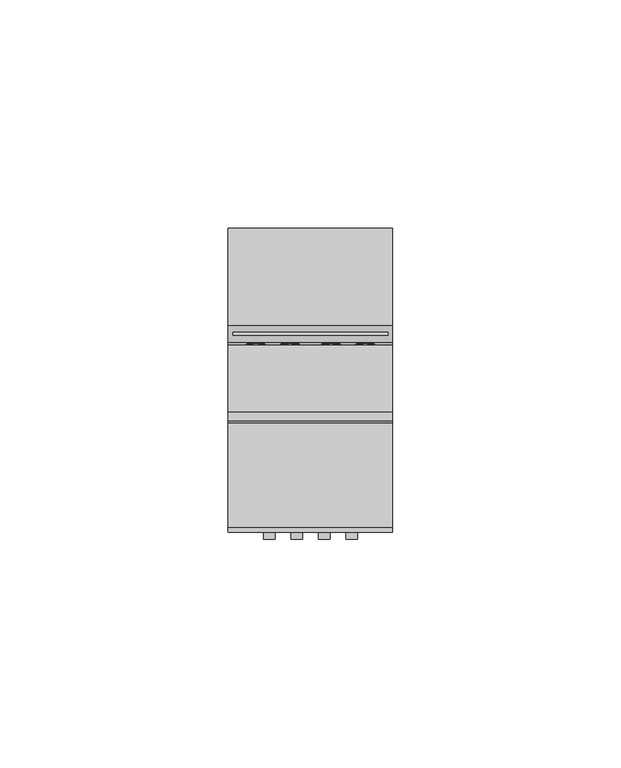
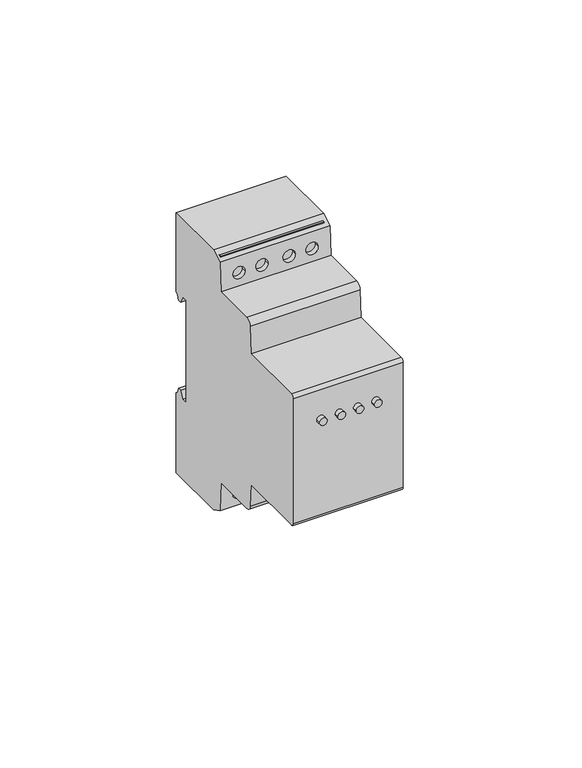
"""IFC4 building model written with IfcOpenShell, lengths in millimetres: proxy geometry, TDM_РЕЛЕ КОНТРОЛЯ НАПРЯЖЕНИЯ СЕРИИ РН 02_04_05_08_10_11 : РН 02-3х400 В."""

from ifc_helpers import new_model, si_unit, point, frame, frame_2d, origin, place, context, project, spatial, polyline, circle_curve, ellipse_curve, trimmed, segment, composite_curve, outline, extrude, source, transform, mapped, element, save
from ifc_brep_helpers import plane_surface, cylinder_surface, revolved_surface, advanced_brep


def electrical_equipment_ff696aed(model_context):
    return source(origin(), model_context, "Body", "SolidModel", [
        extrude(outline(composite_curve([segment(trimmed(circle_curve(frame_2d((10.7391856, -3.0)), 1.25), [point((10.7391856, -4.25))], [point((10.7391856, -1.75))], False, "CARTESIAN"), True, "CONTINUOUS"), segment(trimmed(circle_curve(frame_2d((10.7391856, -3.0)), 1.25), [point((10.7391856, -1.75))], [point((10.7391856, -4.25))], False, "CARTESIAN"), True, "CONTINUOUS")], self_intersect=False)), frame((0.0, -30.5593993, 0.0), z_axis=(0.0, 1.0, 0.0), x_axis=(0.0, 0.0, 1.0)), (0.0, 0.0, 1.0), 1.5593993),
        extrude(outline(composite_curve([segment(trimmed(circle_curve(frame_2d((10.7391856, -9.0)), 1.25), [point((10.7391856, -10.25))], [point((10.7391856, -7.75))], False, "CARTESIAN"), True, "CONTINUOUS"), segment(trimmed(circle_curve(frame_2d((10.7391856, -9.0)), 1.25), [point((10.7391856, -7.75))], [point((10.7391856, -10.25))], False, "CARTESIAN"), True, "CONTINUOUS")], self_intersect=False)), frame((0.0, -30.5593993, 0.0), z_axis=(0.0, 1.0, 0.0), x_axis=(0.0, 0.0, 1.0)), (0.0, 0.0, 1.0), 1.5593993),
        extrude(outline(composite_curve([segment(trimmed(circle_curve(frame_2d((10.7391856, 3.0)), 1.25), [point((10.7391856, 4.25))], [point((10.7391856, 1.75))], False, "CARTESIAN"), True, "CONTINUOUS"), segment(trimmed(circle_curve(frame_2d((10.7391856, 3.0)), 1.25), [point((10.7391856, 1.75))], [point((10.7391856, 4.25))], False, "CARTESIAN"), True, "CONTINUOUS")], self_intersect=False)), frame((0.0, -30.5593993, 0.0), z_axis=(0.0, 1.0, 0.0), x_axis=(0.0, 0.0, 1.0)), (0.0, 0.0, 1.0), 1.5593993),
        extrude(outline(composite_curve([segment(trimmed(circle_curve(frame_2d((10.7391856, 9.0)), 1.25), [point((10.7391856, 10.25))], [point((10.7391856, 7.75))], False, "CARTESIAN"), True, "CONTINUOUS"), segment(trimmed(circle_curve(frame_2d((10.7391856, 9.0)), 1.25), [point((10.7391856, 7.75))], [point((10.7391856, 10.25))], False, "CARTESIAN"), True, "CONTINUOUS")], self_intersect=False)), frame((0.0, -30.5593993, 0.0), z_axis=(0.0, 1.0, 0.0), x_axis=(0.0, 0.0, 1.0)), (0.0, 0.0, 1.0), 1.5593993),
        extrude(outline(polyline([(17.0, 16.6821204), (17.0, 14.1138713), (-17.0, 14.1138713), (-17.0, 16.6821204), (17.0, 16.6821204)])), frame((0.0, 0.0, -44.0625), z_axis=(0.0, 0.0, 1.0), x_axis=(1.0, 0.0, 0.0)), (0.0, 0.0, 1.0), 87.8126081),
        advanced_brep(
        [(18.0, 31.7632568, 18.2057143), (18.0, 33.4745816, 18.2057143), (18.0, 35.0790621, 15.4266726), (18.0, 36.2042493, 15.4266726), (18.0, 36.5256071, 17.2491835), (18.0, 37.5, 17.8117495), (18.0, 37.5, 45.0), (18.0, 16.2660628, 45.0), (18.0, 12.5, 43.0), (18.0, 11.9790691, 33.0600462), (18.0, -2.6020709, 33.0600462), (18.0, -4.5993299, 31.1647181), (18.0, -5.0796325, 22.0), (18.0, -27.8777313, 22.0), (18.0, -29.0, 20.8777313), (18.0, -29.0, -22.3875602), (18.0, -27.8875602, -23.5), (18.0, -5.0010208, -23.5), (18.0, -4.5993299, -31.1647181), (18.0, -2.6020709, -33.0600462), (18.0, 11.9790691, -33.0600462), (18.0, 12.5, -43.0), (18.0, 16.2660628, -45.0), (18.0, 37.5, -45.0), (18.0, 37.5, -17.4003208), (18.0, 36.5256071, -16.8377548), (18.0, 36.2042493, -15.0152439), (18.0, 35.0790621, -15.0152439), (18.0, 33.7632568, -17.2942857), (18.0, 31.7632568, -17.2942857), (-18.0, 31.7632568, 18.2057143), (-18.0, 31.7632568, -17.2942857), (-18.0, 33.7632568, -17.2942857), (-18.0, 35.0790621, -15.0152439), (-18.0, 36.2042493, -15.0152439), (-18.0, 36.5256071, -16.8377548), (-18.0, 37.5, -17.4003208), (-18.0, 37.5, -45.0), (-18.0, 16.2660628, -45.0), (-18.0, 12.5, -43.0), (-18.0, 11.9790691, -33.0600462), (-18.0, -2.6020709, -33.0600462), (-18.0, -4.5993299, -31.1647181), (-18.0, -5.0010208, -23.5), (-18.0, -27.8875602, -23.5), (-18.0, -29.0, -22.3875602), (-18.0, -29.0, 20.8777313), (-18.0, -27.8777313, 22.0), (-18.0, -5.0796325, 22.0), (-18.0, -4.5993299, 31.1647181), (-18.0, -2.6020709, 33.0600462), (-18.0, 11.9790691, 33.0600462), (-18.0, 12.5, 43.0), (-18.0, 16.2660628, 45.0), (-18.0, 37.5, 45.0), (-18.0, 37.5, 17.8117495), (-18.0, 36.5256071, 17.2491835), (-18.0, 36.2042493, 15.4266726), (-18.0, 35.0790621, 15.4266726), (-18.0, 33.4745816, 18.2057143), (-6.4760987, 12.2085347, 37.4385116), (-2.4760987, 12.2085347, 37.4385116), (-13.9760987, 12.2085347, 37.4385116), (-9.9760987, 12.2085347, 37.4385116), (6.4760987, 12.2085347, 37.4385116), (2.4760987, 12.2085347, 37.4385116), (13.9760987, 12.2085347, 37.4385116), (9.9760987, 12.2085347, 37.4385116), (-6.4760987, 12.2740445, -38.6885116), (-2.4760987, 12.2740445, -38.6885116), (-13.9760987, 12.2740445, -38.6885116), (-9.9760987, 12.2740445, -38.6885116), (6.4760987, 12.2740445, -38.6885116), (2.4760987, 12.2740445, -38.6885116), (13.9760987, 12.2740445, -38.6885116), (9.9760987, 12.2740445, -38.6885116), (-2.4760987, 15.2465164, -38.6885116), (-6.4760987, 15.2465164, -38.6885116), (-2.4760987, 15.2465164, 37.4385116), (-6.4760987, 15.2465164, 37.4385116), (-9.9760987, 15.2465164, -38.6885116), (-13.9760987, 15.2465164, -38.6885116), (-9.9760987, 15.2465164, 37.4385116), (-13.9760987, 15.2465164, 37.4385116), (2.4760987, 15.2465164, -38.6885116), (6.4760987, 15.2465164, -38.6885116), (2.4760987, 15.2465164, 37.4385116), (6.4760987, 15.2465164, 37.4385116), (9.9760987, 15.2465164, -38.6885116), (13.9760987, 15.2465164, -38.6885116), (9.9760987, 15.2465164, 37.4385116), (13.9760987, 15.2465164, 37.4385116)],
        [
            (0, 1),
            (1, 2),
            (2, 3),
            (3, 4),
            (4, 5),
            (5, 6),
            (6, 7),
            (7, 8),
            (8, 9),
            (9, 10),
            (10, 11, circle_curve(frame((18.0, -2.6020709, 31.0600462), z_axis=(1.0, 0.0, 0.0), x_axis=(0.0, -1.0, 0.0)), 2.0)),
            (11, 12),
            (12, 13),
            (13, 14, circle_curve(frame((18.0, -27.8777313, 20.8777313), z_axis=(1.0, 0.0, 0.0), x_axis=(0.0, -1.0, 0.0)), 1.1222687)),
            (14, 15),
            (15, 16, circle_curve(frame((18.0, -27.8875602, -22.3875602), z_axis=(1.0, 0.0, 0.0), x_axis=(0.0, -1.0, 0.0)), 1.1124398)),
            (16, 17),
            (17, 18),
            (18, 19, circle_curve(frame((18.0, -2.6020709, -31.0600462), z_axis=(1.0, 0.0, 0.0), x_axis=(0.0, -1.0, 0.0)), 2.0)),
            (19, 20),
            (20, 21),
            (21, 22),
            (22, 23),
            (23, 24),
            (24, 25),
            (25, 26),
            (26, 27),
            (27, 28),
            (28, 29),
            (29, 0),
            (30, 31),
            (31, 32),
            (32, 33),
            (33, 34),
            (34, 35),
            (35, 36),
            (36, 37),
            (37, 38),
            (38, 39),
            (39, 40),
            (40, 41),
            (41, 42, circle_curve(frame((-18.0, -2.6020709, -31.0600462), z_axis=(-1.0, 0.0, 0.0), x_axis=(0.0, -1.0, 0.0)), 2.0)),
            (42, 43),
            (43, 44),
            (44, 45, circle_curve(frame((-18.0, -27.8875602, -22.3875602), z_axis=(-1.0, 0.0, 0.0), x_axis=(0.0, -1.0, 0.0)), 1.1124398)),
            (45, 46),
            (46, 47, circle_curve(frame((-18.0, -27.8777313, 20.8777313), z_axis=(-1.0, 0.0, 0.0), x_axis=(0.0, -1.0, 0.0)), 1.1222687)),
            (47, 48),
            (48, 49),
            (49, 50, circle_curve(frame((-18.0, -2.6020709, 31.0600462), z_axis=(-1.0, 0.0, 0.0), x_axis=(0.0, -1.0, 0.0)), 2.0)),
            (50, 51),
            (51, 52),
            (52, 53),
            (53, 54),
            (54, 55),
            (55, 56),
            (56, 57),
            (57, 58),
            (58, 59),
            (59, 30),
            (0, 30),
            (59, 1),
            (58, 2),
            (57, 3),
            (56, 4),
            (55, 5),
            (54, 6),
            (53, 7),
            (8, 52),
            (51, 9),
            (60, 61, ellipse_curve(frame((-4.4760987, 12.2085347, 37.4385116), z_axis=(0.0, 0.9986295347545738, -0.05233595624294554), x_axis=(0.0, -0.052335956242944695, -0.9986295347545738)), 2.0027447, 2.0)),
            (61, 60, ellipse_curve(frame((-4.4760987, 12.2085347, 37.4385116), z_axis=(0.0, 0.9986295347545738, -0.05233595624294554), x_axis=(0.0, -0.052335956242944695, -0.9986295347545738)), 2.0027447, 2.0)),
            (62, 63, ellipse_curve(frame((-11.9760987, 12.2085347, 37.4385116), z_axis=(0.0, 0.9986295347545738, -0.05233595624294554), x_axis=(0.0, -0.052335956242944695, -0.9986295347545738)), 2.0027447, 2.0)),
            (63, 62, ellipse_curve(frame((-11.9760987, 12.2085347, 37.4385116), z_axis=(0.0, 0.9986295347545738, -0.05233595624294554), x_axis=(0.0, -0.052335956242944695, -0.9986295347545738)), 2.0027447, 2.0)),
            (64, 65, ellipse_curve(frame((4.4760987, 12.2085347, 37.4385116), z_axis=(0.0, 0.9986295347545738, -0.05233595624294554), x_axis=(0.0, -0.052335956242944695, -0.9986295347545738)), 2.0027447, 2.0)),
            (65, 64, ellipse_curve(frame((4.4760987, 12.2085347, 37.4385116), z_axis=(0.0, 0.9986295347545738, -0.05233595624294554), x_axis=(0.0, -0.052335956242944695, -0.9986295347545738)), 2.0027447, 2.0)),
            (66, 67, ellipse_curve(frame((11.9760987, 12.2085347, 37.4385116), z_axis=(0.0, 0.9986295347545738, -0.05233595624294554), x_axis=(0.0, -0.052335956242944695, -0.9986295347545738)), 2.0027447, 2.0)),
            (67, 66, ellipse_curve(frame((11.9760987, 12.2085347, 37.4385116), z_axis=(0.0, 0.9986295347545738, -0.05233595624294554), x_axis=(0.0, -0.052335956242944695, -0.9986295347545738)), 2.0027447, 2.0)),
            (50, 10),
            (49, 11),
            (48, 12),
            (47, 13),
            (46, 14),
            (45, 15),
            (16, 44),
            (43, 17),
            (42, 18),
            (41, 19),
            (40, 20),
            (39, 21),
            (68, 69, ellipse_curve(frame((-4.4760987, 12.2740445, -38.6885116), z_axis=(0.0, 0.9986295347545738, 0.05233595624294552), x_axis=(0.0, -0.05233595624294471, 0.9986295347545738)), 2.0027447, 2.0)),
            (69, 68, ellipse_curve(frame((-4.4760987, 12.2740445, -38.6885116), z_axis=(0.0, 0.9986295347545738, 0.05233595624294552), x_axis=(0.0, -0.05233595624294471, 0.9986295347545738)), 2.0027447, 2.0)),
            (70, 71, ellipse_curve(frame((-11.9760987, 12.2740445, -38.6885116), z_axis=(0.0, 0.9986295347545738, 0.05233595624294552), x_axis=(0.0, -0.05233595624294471, 0.9986295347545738)), 2.0027447, 2.0)),
            (71, 70, ellipse_curve(frame((-11.9760987, 12.2740445, -38.6885116), z_axis=(0.0, 0.9986295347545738, 0.05233595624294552), x_axis=(0.0, -0.05233595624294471, 0.9986295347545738)), 2.0027447, 2.0)),
            (72, 73, ellipse_curve(frame((4.4760987, 12.2740445, -38.6885116), z_axis=(0.0, 0.9986295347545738, 0.05233595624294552), x_axis=(0.0, -0.05233595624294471, 0.9986295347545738)), 2.0027447, 2.0)),
            (73, 72, ellipse_curve(frame((4.4760987, 12.2740445, -38.6885116), z_axis=(0.0, 0.9986295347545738, 0.05233595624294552), x_axis=(0.0, -0.05233595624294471, 0.9986295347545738)), 2.0027447, 2.0)),
            (74, 75, ellipse_curve(frame((11.9760987, 12.2740445, -38.6885116), z_axis=(0.0, 0.9986295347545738, 0.05233595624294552), x_axis=(0.0, -0.05233595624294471, 0.9986295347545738)), 2.0027447, 2.0)),
            (75, 74, ellipse_curve(frame((11.9760987, 12.2740445, -38.6885116), z_axis=(0.0, 0.9986295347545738, 0.05233595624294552), x_axis=(0.0, -0.05233595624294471, 0.9986295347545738)), 2.0027447, 2.0)),
            (22, 38),
            (37, 23),
            (36, 24),
            (35, 25),
            (34, 26),
            (33, 27),
            (32, 28),
            (31, 29),
            (76, 77, circle_curve(frame((-4.4760987, 15.2465164, -38.6885116), z_axis=(0.0, -1.0, 0.0), x_axis=(-1.0, 0.0, 0.0)), 2.0)),
            (77, 76, circle_curve(frame((-4.4760987, 15.2465164, -38.6885116), z_axis=(0.0, -1.0, 0.0), x_axis=(-1.0, 0.0, 0.0)), 2.0)),
            (78, 79, circle_curve(frame((-4.4760987, 15.2465164, 37.4385116), z_axis=(0.0, -1.0, 0.0), x_axis=(-1.0, 0.0, 0.0)), 2.0)),
            (79, 78, circle_curve(frame((-4.4760987, 15.2465164, 37.4385116), z_axis=(0.0, -1.0, 0.0), x_axis=(-1.0, 0.0, 0.0)), 2.0)),
            (80, 81, circle_curve(frame((-11.9760987, 15.2465164, -38.6885116), z_axis=(0.0, -1.0, 0.0), x_axis=(-1.0, 0.0, 0.0)), 2.0)),
            (81, 80, circle_curve(frame((-11.9760987, 15.2465164, -38.6885116), z_axis=(0.0, -1.0, 0.0), x_axis=(-1.0, 0.0, 0.0)), 2.0)),
            (82, 83, circle_curve(frame((-11.9760987, 15.2465164, 37.4385116), z_axis=(0.0, -1.0, 0.0), x_axis=(-1.0, 0.0, 0.0)), 2.0)),
            (83, 82, circle_curve(frame((-11.9760987, 15.2465164, 37.4385116), z_axis=(0.0, -1.0, 0.0), x_axis=(-1.0, 0.0, 0.0)), 2.0)),
            (84, 85, circle_curve(frame((4.4760987, 15.2465164, -38.6885116), z_axis=(0.0, -1.0, 0.0), x_axis=(1.0, 0.0, 0.0)), 2.0)),
            (85, 84, circle_curve(frame((4.4760987, 15.2465164, -38.6885116), z_axis=(0.0, -1.0, 0.0), x_axis=(1.0, 0.0, 0.0)), 2.0)),
            (86, 87, circle_curve(frame((4.4760987, 15.2465164, 37.4385116), z_axis=(0.0, -1.0, 0.0), x_axis=(1.0, 0.0, 0.0)), 2.0)),
            (87, 86, circle_curve(frame((4.4760987, 15.2465164, 37.4385116), z_axis=(0.0, -1.0, 0.0), x_axis=(1.0, 0.0, 0.0)), 2.0)),
            (88, 89, circle_curve(frame((11.9760987, 15.2465164, -38.6885116), z_axis=(0.0, -1.0, 0.0), x_axis=(1.0, 0.0, 0.0)), 2.0)),
            (89, 88, circle_curve(frame((11.9760987, 15.2465164, -38.6885116), z_axis=(0.0, -1.0, 0.0), x_axis=(1.0, 0.0, 0.0)), 2.0)),
            (90, 91, circle_curve(frame((11.9760987, 15.2465164, 37.4385116), z_axis=(0.0, -1.0, 0.0), x_axis=(1.0, 0.0, 0.0)), 2.0)),
            (91, 90, circle_curve(frame((11.9760987, 15.2465164, 37.4385116), z_axis=(0.0, -1.0, 0.0), x_axis=(1.0, 0.0, 0.0)), 2.0)),
            (76, 69),
            (68, 77),
            (78, 61),
            (60, 79),
            (80, 71),
            (70, 81),
            (82, 63),
            (62, 83),
            (84, 73),
            (72, 85),
            (86, 65),
            (64, 87),
            (88, 75),
            (74, 89),
            (90, 67),
            (66, 91),
        ],
        [
            plane_surface(frame((18.0, 31.7632568, 18.2057143), z_axis=(1.0, 0.0, 0.0), x_axis=(0.0, 1.0, 0.0))),
            plane_surface(frame((-18.0, 31.7632568, 18.2057143), z_axis=(-1.0, 0.0, 0.0), x_axis=(0.0, -1.0, 0.0))),
            plane_surface(frame((18.0, 31.7632568, 18.2057143), z_axis=(0.0, 0.0, -1.0), x_axis=(-1.0, 0.0, 0.0))),
            plane_surface(frame((18.0, 33.4745816, 18.2057143), z_axis=(0.0, -0.8660254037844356, -0.5000000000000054), x_axis=(-1.0, 0.0, 0.0))),
            plane_surface(frame((18.0, 35.0790621, 15.4266726), z_axis=(0.0, 0.0, -1.0), x_axis=(-1.0, 0.0, 0.0))),
            plane_surface(frame((18.0, 36.2042493, 15.4266726), z_axis=(0.0, 0.984807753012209, -0.17364817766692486), x_axis=(-1.0, 0.0, 0.0))),
            plane_surface(frame((18.0, 36.5256071, 17.2491835), z_axis=(0.0, 0.5000000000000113, -0.8660254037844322), x_axis=(-1.0, 0.0, 0.0))),
            plane_surface(frame((18.0, 37.5, 17.8117495), z_axis=(0.0, 1.0, 0.0), x_axis=(-1.0, 0.0, 0.0))),
            plane_surface(frame((18.0, 37.5, 45.0), z_axis=(0.0, 0.0, 1.0), x_axis=(-1.0, 0.0, 0.0))),
            plane_surface(frame((18.0, 12.5, 43.0), z_axis=(0.0, -0.9986295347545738, 0.05233595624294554), x_axis=(-1.0, 0.0, 0.0))),
            plane_surface(frame((18.0, 11.9790691, 33.0600462), z_axis=(0.0, 0.0, 1.0), x_axis=(-1.0, 0.0, 0.0))),
            cylinder_surface(frame((-18.0, -2.6020709, 31.0600462), z_axis=(1.0, 0.0, 0.0), x_axis=(0.0, -1.0, 0.0)), 2.0),
            plane_surface(frame((18.0, -4.5993299, 31.1647181), z_axis=(0.0, -0.9986295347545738, 0.052335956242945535), x_axis=(-1.0, 0.0, 0.0))),
            plane_surface(frame((18.0, -5.0796325, 22.0), z_axis=(0.0, 0.0, 1.0), x_axis=(-1.0, 0.0, 0.0))),
            cylinder_surface(frame((-18.0, -27.8777313, 20.8777313), z_axis=(1.0, 0.0, 0.0), x_axis=(0.0, -1.0, 0.0)), 1.1222687),
            plane_surface(frame((18.0, -29.0, 20.8777313), z_axis=(0.0, -1.0, 0.0), x_axis=(-1.0, 0.0, 0.0))),
            plane_surface(frame((18.0, -27.8875602, -23.5), z_axis=(0.0, 0.0, -1.0), x_axis=(-1.0, 0.0, 0.0))),
            plane_surface(frame((18.0, -5.0010208, -23.5), z_axis=(0.0, -0.9986295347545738, -0.05233595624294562), x_axis=(-1.0, 0.0, 0.0))),
            cylinder_surface(frame((-18.0, -2.6020709, -31.0600462), z_axis=(1.0, 0.0, 0.0), x_axis=(0.0, -1.0, 0.0)), 2.0),
            plane_surface(frame((18.0, -2.6020709, -33.0600462), z_axis=(0.0, 0.0, -1.0), x_axis=(-1.0, 0.0, 0.0))),
            plane_surface(frame((18.0, 11.9790691, -33.0600462), z_axis=(0.0, -0.9986295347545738, -0.05233595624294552), x_axis=(-1.0, 0.0, 0.0))),
            plane_surface(frame((18.0, 16.2660628, -45.0), z_axis=(0.0, 0.0, -1.0), x_axis=(-1.0, 0.0, 0.0))),
            plane_surface(frame((18.0, 37.5, -45.0), z_axis=(0.0, 1.0, 0.0), x_axis=(-1.0, 0.0, 0.0))),
            plane_surface(frame((18.0, 37.5, -17.4003208), z_axis=(0.0, 0.5000000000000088, 0.8660254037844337), x_axis=(-1.0, 0.0, 0.0))),
            plane_surface(frame((18.0, 36.5256071, -16.8377548), z_axis=(0.0, 0.9848077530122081, 0.17364817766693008), x_axis=(-1.0, 0.0, 0.0))),
            plane_surface(frame((18.0, 36.2042493, -15.0152439), z_axis=(0.0, 0.0, 1.0), x_axis=(-1.0, 0.0, 0.0))),
            plane_surface(frame((18.0, 35.0790621, -15.0152439), z_axis=(0.0, -0.8660254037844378, 0.5000000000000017), x_axis=(-1.0, 0.0, 0.0))),
            plane_surface(frame((18.0, 33.7632568, -17.2942857), z_axis=(0.0, 0.0, 1.0), x_axis=(-1.0, 0.0, 0.0))),
            plane_surface(frame((18.0, 31.7632568, -17.2942857), z_axis=(0.0, 1.0, 0.0), x_axis=(-1.0, 0.0, 0.0))),
            cylinder_surface(frame((-18.0, -27.8875602, -22.3875602), z_axis=(1.0, 0.0, 0.0), x_axis=(0.0, -1.0, 0.0)), 1.1124398),
            plane_surface(frame((-6.4760987, 15.2465164, -38.6885116), z_axis=(0.0, -1.0, 0.0), x_axis=(0.0, 0.0, 1.0))),
            revolved_surface(polyline([(-6.4760987, 12.16922894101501, -38.6885116), (-6.4760987, 15.2465164, -38.6885116)]), (-4.4760987, 15.2465164, -38.6885116), (0.0, -1.0, 0.0)),
            revolved_surface(polyline([(-6.4760987, 12.10371914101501, 37.4385116), (-6.4760987, 15.2465164, 37.4385116)]), (-4.4760987, 0.0, 37.4385116), (0.0, -1.0, 0.0)),
            plane_surface(frame((18.0, 16.2660628, 45.0), z_axis=(0.0, -0.4690233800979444, 0.8831857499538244), x_axis=(-1.0, 0.0, 0.0))),
            plane_surface(frame((18.0, 12.5, -43.0), z_axis=(0.0, -0.4690233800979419, -0.8831857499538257), x_axis=(-1.0, 0.0, 0.0))),
            revolved_surface(polyline([(-13.9760987, 12.16922894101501, -38.6885116), (-13.9760987, 15.2465164, -38.6885116)]), (-11.9760987, 0.0, -38.6885116), (0.0, -1.0, 0.0)),
            revolved_surface(polyline([(-13.9760987, 12.10371914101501, 37.4385116), (-13.9760987, 15.2465164, 37.4385116)]), (-11.9760987, 0.0, 37.4385116), (0.0, -1.0, 0.0)),
            revolved_surface(polyline([(6.4760987, 12.16922894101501, -38.6885116), (6.4760987, 15.2465164, -38.6885116)]), (4.4760987, 0.0, -38.6885116), (0.0, -1.0, 0.0)),
            revolved_surface(polyline([(6.4760987, 12.10371914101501, 37.4385116), (6.4760987, 15.2465164, 37.4385116)]), (4.4760987, 0.0, 37.4385116), (0.0, -1.0, 0.0)),
            revolved_surface(polyline([(13.9760987, 12.16922894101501, -38.6885116), (13.9760987, 15.2465164, -38.6885116)]), (11.9760987, 0.0, -38.6885116), (0.0, -1.0, 0.0)),
            revolved_surface(polyline([(13.9760987, 12.10371914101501, 37.4385116), (13.9760987, 15.2465164, 37.4385116)]), (11.9760987, 0.0, 37.4385116), (0.0, -1.0, 0.0)),
        ],
        [
            (0, [[1, 2, 3, 4, 5, 6, 7, 8, 9, 10, 11, 12, 13, 14, 15, 16, 17, 18, 19, 20, 21, 22, 23, 24, 25, 26, 27, 28, 29, 30]]),
            (1, [[31, 32, 33, 34, 35, 36, 37, 38, 39, 40, 41, 42, 43, 44, 45, 46, 47, 48, 49, 50, 51, 52, 53, 54, 55, 56, 57, 58, 59, 60]]),
            (2, [[-1, 61, -60, 62]]),
            (3, [[-2, -62, -59, 63]]),
            (4, [[-3, -63, -58, 64]]),
            (5, [[-4, -64, -57, 65]]),
            (6, [[-5, -65, -56, 66]]),
            (7, [[-6, -66, -55, 67]]),
            (8, [[-7, -67, -54, 68]]),
            (9, [[-9, 69, -52, 70], [71, 72], [73, 74], [75, 76], [77, 78]]),
            (10, [[-10, -70, -51, 79]]),
            (11, [[-11, -79, -50, 80]]),
            (12, [[-12, -80, -49, 81]]),
            (13, [[-13, -81, -48, 82]]),
            (14, [[-14, -82, -47, 83]]),
            (15, [[-15, -83, -46, 84]]),
            (16, [[-17, 85, -44, 86]]),
            (17, [[-18, -86, -43, 87]]),
            (18, [[-19, -87, -42, 88]]),
            (19, [[-20, -88, -41, 89]]),
            (20, [[-21, -89, -40, 90], [91, 92], [93, 94], [95, 96], [97, 98]]),
            (21, [[-23, 99, -38, 100]]),
            (22, [[-24, -100, -37, 101]]),
            (23, [[-25, -101, -36, 102]]),
            (24, [[-26, -102, -35, 103]]),
            (25, [[-27, -103, -34, 104]]),
            (26, [[-28, -104, -33, 105]]),
            (27, [[-29, -105, -32, 106]]),
            (28, [[-30, -106, -31, -61]]),
            (29, [[-16, -84, -45, -85]]),
            (30, [[107, 108]]),
            (30, [[109, 110]]),
            (30, [[111, 112]]),
            (30, [[113, 114]]),
            (30, [[115, 116]]),
            (30, [[117, 118]]),
            (30, [[119, 120]]),
            (30, [[121, 122]]),
            (31, [[-107, 123, -91, 124]]),
            (31, [[-108, -124, -92, -123]]),
            (32, [[-109, 125, -71, 126]]),
            (32, [[-110, -126, -72, -125]]),
            (33, [[-8, -68, -53, -69]]),
            (34, [[-22, -90, -39, -99]]),
            (35, [[-111, 127, -93, 128]]),
            (35, [[-112, -128, -94, -127]]),
            (36, [[-113, 129, -73, 130]]),
            (36, [[-114, -130, -74, -129]]),
            (37, [[-115, 131, -95, 132]]),
            (37, [[-116, -132, -96, -131]]),
            (38, [[-117, 133, -75, 134]]),
            (38, [[-118, -134, -76, -133]]),
            (39, [[-119, 135, -97, 136]]),
            (39, [[-120, -136, -98, -135]]),
            (40, [[-121, 137, -77, 138]]),
            (40, [[-122, -138, -78, -137]]),
        ],
    ),
    ])


if __name__ == "__main__":
    model = new_model("IFC4")
    model_context = context("Model", 3, world=origin())
    ifc_project = project(units=[si_unit("LENGTHUNIT", "METRE", prefix="MILLI")], contexts=[model_context])
    site = spatial("IfcSite", under=ifc_project)
    building = spatial("IfcBuilding", under=site)
    placement = place(None, origin())
    electrical_equipment_shape = electrical_equipment_ff696aed(model_context)
    element("IfcBuildingElementProxy", 1, Name="TDM_РЕЛЕ КОНТРОЛЯ НАПРЯЖЕНИЯ СЕРИИ РН 02_04_05_08_10_11 : РН 02-3х400 В", ObjectType="TDM_РЕЛЕ КОНТРОЛЯ НАПРЯЖЕНИЯ СЕРИИ РН 02_04_05_08_10_11 : РН 02-3х400 В", at=placement, inside=building, context=model_context, shape_type="MappedRepresentation", body=[
        mapped(electrical_equipment_shape, transform((0.0, 0.0, 0.0), x_axis=(1.0, 0.0, 0.0), y_axis=(0.0, 1.0, 0.0), z_axis=(0.0, 0.0, 1.0))),
    ])
    save(model, "model.ifc")
